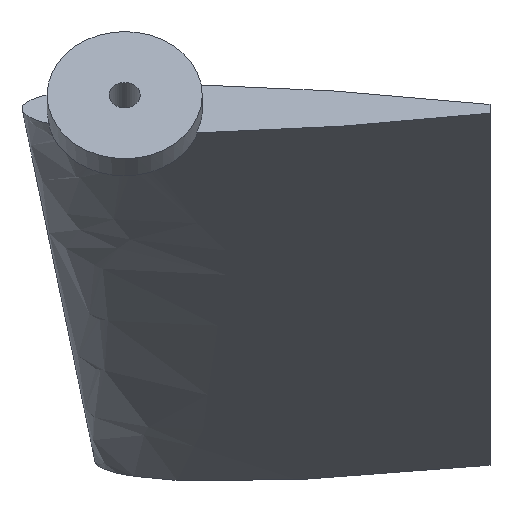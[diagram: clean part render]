
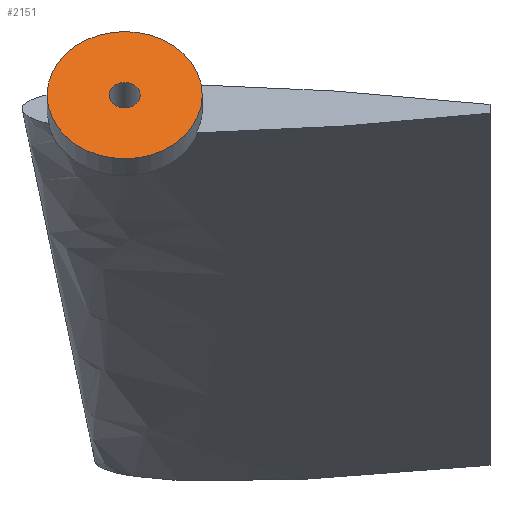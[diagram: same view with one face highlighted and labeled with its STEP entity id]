
A CAD part, front view. The second image highlights one B-rep face of the part: STEP entity #2151.
In plain terms, the highlighted planar face has unit normal (0, -0.819, 0.574).
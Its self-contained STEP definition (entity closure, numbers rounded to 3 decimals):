
#340 = CYLINDRICAL_SURFACE('',#341,6.5);
#341 = AXIS2_PLACEMENT_3D('',#342,#343,#344);
#342 = CARTESIAN_POINT('',(393.4,18.431,-12.905));
#343 = DIRECTION('',(0.,0.819,-0.574));
#344 = DIRECTION('',(0.,0.574,0.819));
#2068 = VERTEX_POINT('',#2069);
#2069 = CARTESIAN_POINT('',(393.4,22.159,-7.581));
#2125 = EDGE_CURVE('',#2068,#2068,#2126,.T.);
#2126 = SURFACE_CURVE('',#2127,(#2132,#2139),.PCURVE_S1.);
#2127 = CIRCLE('',#2128,6.5);
#2128 = AXIS2_PLACEMENT_3D('',#2129,#2130,#2131);
#2129 = CARTESIAN_POINT('',(393.4,18.431,-12.905));
#2130 = DIRECTION('',(0.,0.819,-0.574));
#2131 = DIRECTION('',(0.,0.574,0.819));
#2132 = PCURVE('',#340,#2133);
#2133 = DEFINITIONAL_REPRESENTATION('',(#2134),#2138);
#2134 = LINE('',#2135,#2136);
#2135 = CARTESIAN_POINT('',(0.,0.));
#2136 = VECTOR('',#2137,1.);
#2137 = DIRECTION('',(1.,0.));
#2138 = ( GEOMETRIC_REPRESENTATION_CONTEXT(2) 
PARAMETRIC_REPRESENTATION_CONTEXT() REPRESENTATION_CONTEXT('2D SPACE',''
  ) );
#2139 = PCURVE('',#2140,#2145);
#2140 = PLANE('',#2141);
#2141 = AXIS2_PLACEMENT_3D('',#2142,#2143,#2144);
#2142 = CARTESIAN_POINT('',(393.4,18.431,-12.905));
#2143 = DIRECTION('',(0.,0.819,-0.574));
#2144 = DIRECTION('',(0.,0.574,0.819));
#2145 = DEFINITIONAL_REPRESENTATION('',(#2146),#2150);
#2146 = CIRCLE('',#2147,6.5);
#2147 = AXIS2_PLACEMENT_2D('',#2148,#2149);
#2148 = CARTESIAN_POINT('',(0.,0.));
#2149 = DIRECTION('',(1.,0.));
#2150 = ( GEOMETRIC_REPRESENTATION_CONTEXT(2) 
PARAMETRIC_REPRESENTATION_CONTEXT() REPRESENTATION_CONTEXT('2D SPACE',''
  ) );
#2151 = ADVANCED_FACE('',(#2152,#2155),#2140,.F.);
#2152 = FACE_BOUND('',#2153,.F.);
#2153 = EDGE_LOOP('',(#2154));
#2154 = ORIENTED_EDGE('',*,*,#2125,.T.);
#2155 = FACE_BOUND('',#2156,.F.);
#2156 = EDGE_LOOP('',(#2157));
#2157 = ORIENTED_EDGE('',*,*,#2158,.F.);
#2158 = EDGE_CURVE('',#2159,#2159,#2161,.T.);
#2159 = VERTEX_POINT('',#2160);
#2160 = CARTESIAN_POINT('',(393.4,19.177,-11.841));
#2161 = SURFACE_CURVE('',#2162,(#2167,#2174),.PCURVE_S1.);
#2162 = CIRCLE('',#2163,1.3);
#2163 = AXIS2_PLACEMENT_3D('',#2164,#2165,#2166);
#2164 = CARTESIAN_POINT('',(393.4,18.431,-12.905));
#2165 = DIRECTION('',(0.,0.819,-0.574));
#2166 = DIRECTION('',(0.,0.574,0.819));
#2167 = PCURVE('',#2140,#2168);
#2168 = DEFINITIONAL_REPRESENTATION('',(#2169),#2173);
#2169 = CIRCLE('',#2170,1.3);
#2170 = AXIS2_PLACEMENT_2D('',#2171,#2172);
#2171 = CARTESIAN_POINT('',(0.,0.));
#2172 = DIRECTION('',(1.,0.));
#2173 = ( GEOMETRIC_REPRESENTATION_CONTEXT(2) 
PARAMETRIC_REPRESENTATION_CONTEXT() REPRESENTATION_CONTEXT('2D SPACE',''
  ) );
#2174 = PCURVE('',#2175,#2180);
#2175 = CYLINDRICAL_SURFACE('',#2176,1.3);
#2176 = AXIS2_PLACEMENT_3D('',#2177,#2178,#2179);
#2177 = CARTESIAN_POINT('',(393.4,17.612,-12.332));
#2178 = DIRECTION('',(0.,0.819,-0.574));
#2179 = DIRECTION('',(0.,0.574,0.819));
#2180 = DEFINITIONAL_REPRESENTATION('',(#2181),#2185);
#2181 = LINE('',#2182,#2183);
#2182 = CARTESIAN_POINT('',(0.,1.));
#2183 = VECTOR('',#2184,1.);
#2184 = DIRECTION('',(1.,0.));
#2185 = ( GEOMETRIC_REPRESENTATION_CONTEXT(2) 
PARAMETRIC_REPRESENTATION_CONTEXT() REPRESENTATION_CONTEXT('2D SPACE',''
  ) );
